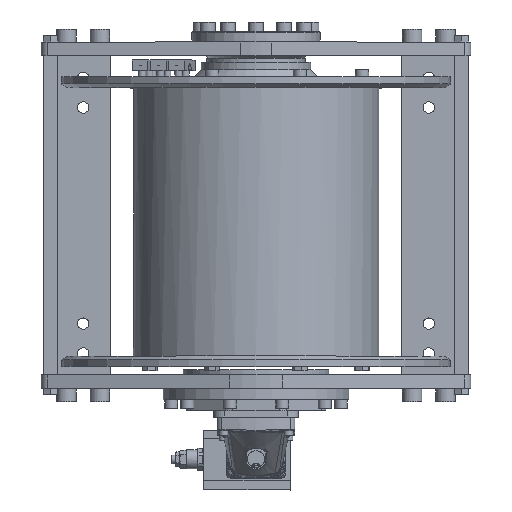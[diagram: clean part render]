
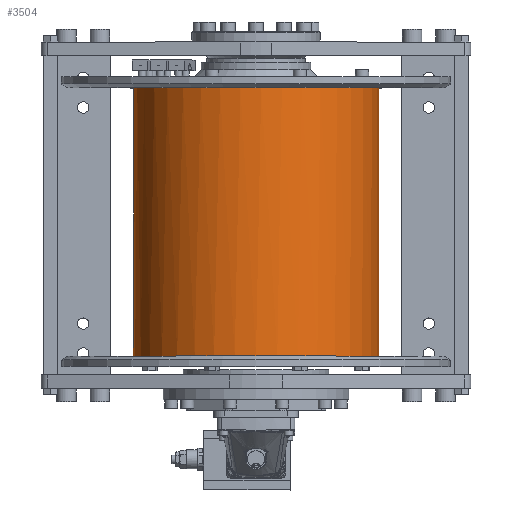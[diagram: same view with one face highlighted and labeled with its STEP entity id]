
A CAD part, top view. The second image highlights one B-rep face of the part: STEP entity #3504.
In plain terms, the highlighted cylindrical face has radius 227 mm (diameter 454 mm), a full revolution.
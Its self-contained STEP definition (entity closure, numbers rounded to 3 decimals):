
#3504 = ADVANCED_FACE( '', ( #7714, #7715 ), #7716, .T. );
#7714 = FACE_OUTER_BOUND( '', #19686, .T. );
#7715 = FACE_OUTER_BOUND( '', #19687, .T. );
#7716 = CYLINDRICAL_SURFACE( '', #19688, 227. );
#19686 = EDGE_LOOP( '', ( #35657 ) );
#19687 = EDGE_LOOP( '', ( #35658 ) );
#19688 = AXIS2_PLACEMENT_3D( '', #35659, #35660, #35661 );
#35657 = ORIENTED_EDGE( '', *, *, #45400, .T. );
#35658 = ORIENTED_EDGE( '', *, *, #42592, .F. );
#35659 = CARTESIAN_POINT( '', ( 0., -248.5, 0. ) );
#35660 = DIRECTION( '', ( 0., -1., 0. ) );
#35661 = DIRECTION( '', ( 0., 0., 1. ) );
#42592 = EDGE_CURVE( '', #48106, #48106, #48107, .T. );
#45400 = EDGE_CURVE( '', #52595, #52595, #52596, .T. );
#48106 = VERTEX_POINT( '', #57061 );
#48107 = CIRCLE( '', #57062, 227. );
#52595 = VERTEX_POINT( '', #71805 );
#52596 = CIRCLE( '', #71806, 227. );
#57061 = CARTESIAN_POINT( '', ( 227., 248.5, 0. ) );
#57062 = AXIS2_PLACEMENT_3D( '', #81035, #81036, #81037 );
#71805 = CARTESIAN_POINT( '', ( 227., -248.5, 0. ) );
#71806 = AXIS2_PLACEMENT_3D( '', #82924, #82925, #82926 );
#81035 = CARTESIAN_POINT( '', ( 0., 248.5, 0. ) );
#81036 = DIRECTION( '', ( 0., 1., 0. ) );
#81037 = DIRECTION( '', ( 1., 0., 0. ) );
#82924 = CARTESIAN_POINT( '', ( 0., -248.5, 0. ) );
#82925 = DIRECTION( '', ( 0., 1., 0. ) );
#82926 = DIRECTION( '', ( 1., 0., 0. ) );
